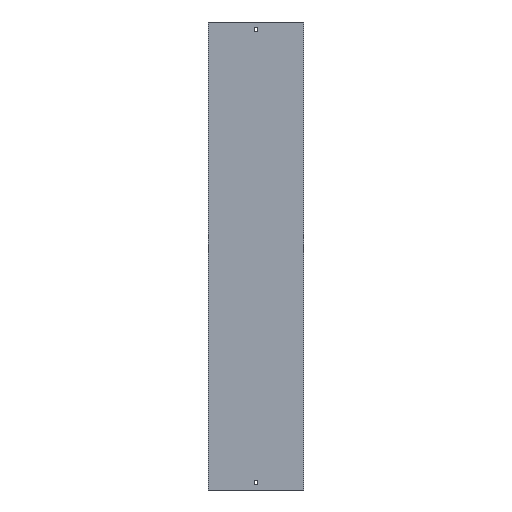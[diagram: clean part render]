
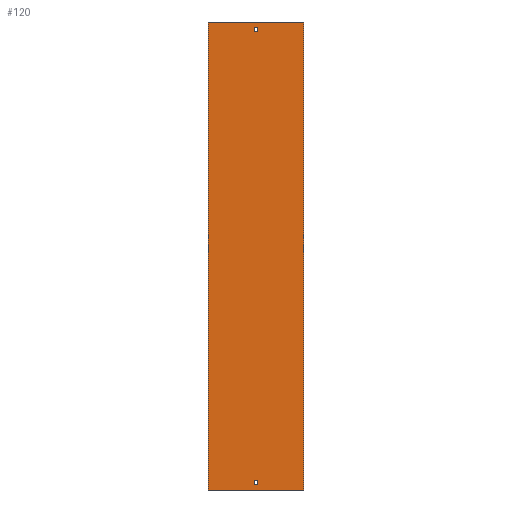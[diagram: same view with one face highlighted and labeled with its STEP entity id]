
A CAD part, front view. The second image highlights one B-rep face of the part: STEP entity #120.
In plain terms, the highlighted planar face has unit normal (0, -1, 0).
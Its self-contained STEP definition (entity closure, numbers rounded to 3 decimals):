
#1 = CARTESIAN_POINT ( 'NONE',  ( -102., 0., 500. ) ) ;
#23 = VERTEX_POINT ( 'NONE', #1022 ) ;
#26 = VERTEX_POINT ( 'NONE', #35 ) ;
#31 = ORIENTED_EDGE ( 'NONE', *, *, #721, .T. ) ;
#35 = CARTESIAN_POINT ( 'NONE',  ( 102., 0., -500. ) ) ;
#50 = CARTESIAN_POINT ( 'NONE',  ( -102., 0., 500. ) ) ;
#58 = VECTOR ( 'NONE', #220, 1000. ) ;
#65 = DIRECTION ( 'NONE',  ( 1., 0., 0. ) ) ;
#70 = FACE_BOUND ( 'NONE', #421, .T. ) ;
#82 = CARTESIAN_POINT ( 'NONE',  ( -3.25, 0., 488. ) ) ;
#98 = ORIENTED_EDGE ( 'NONE', *, *, #1135, .F. ) ;
#104 = CARTESIAN_POINT ( 'NONE',  ( -102., 0., 500. ) ) ;
#116 = VERTEX_POINT ( 'NONE', #949 ) ;
#120 = ADVANCED_FACE ( 'NONE', ( #680, #70, #337 ), #785, .F. ) ;
#157 = EDGE_CURVE ( 'NONE', #796, #852, #523, .T. ) ;
#177 = ORIENTED_EDGE ( 'NONE', *, *, #496, .T. ) ;
#194 = LINE ( 'NONE', #480, #229 ) ;
#204 = ORIENTED_EDGE ( 'NONE', *, *, #928, .T. ) ;
#220 = DIRECTION ( 'NONE',  ( 0., 0., -1. ) ) ;
#228 = CARTESIAN_POINT ( 'NONE',  ( -3.25, 0., 488. ) ) ;
#229 = VECTOR ( 'NONE', #379, 1000. ) ;
#236 = ORIENTED_EDGE ( 'NONE', *, *, #608, .T. ) ;
#243 = CARTESIAN_POINT ( 'NONE',  ( 3.25, 0., 488. ) ) ;
#262 = DIRECTION ( 'NONE',  ( -1., 0., 0. ) ) ;
#266 = LINE ( 'NONE', #619, #1010 ) ;
#286 = VECTOR ( 'NONE', #1129, 1000. ) ;
#295 = ORIENTED_EDGE ( 'NONE', *, *, #464, .F. ) ;
#337 = FACE_BOUND ( 'NONE', #748, .T. ) ;
#346 = CARTESIAN_POINT ( 'NONE',  ( 3.25, 0., -488. ) ) ;
#358 = CARTESIAN_POINT ( 'NONE',  ( -3.25, 0., -488. ) ) ;
#360 = EDGE_CURVE ( 'NONE', #1090, #1038, #679, .T. ) ;
#374 = VECTOR ( 'NONE', #758, 1000. ) ;
#379 = DIRECTION ( 'NONE',  ( 0., 0., -1. ) ) ;
#392 = VECTOR ( 'NONE', #1026, 1000. ) ;
#396 = CARTESIAN_POINT ( 'NONE',  ( -3.25, 0., 479. ) ) ;
#403 = DIRECTION ( 'NONE',  ( 0., 0., -1. ) ) ;
#421 = EDGE_LOOP ( 'NONE', ( #897, #98, #1051, #295 ) ) ;
#436 = LINE ( 'NONE', #358, #286 ) ;
#440 = EDGE_CURVE ( 'NONE', #575, #26, #774, .T. ) ;
#445 = ORIENTED_EDGE ( 'NONE', *, *, #634, .F. ) ;
#461 = ORIENTED_EDGE ( 'NONE', *, *, #360, .F. ) ;
#464 = EDGE_CURVE ( 'NONE', #705, #796, #948, .T. ) ;
#480 = CARTESIAN_POINT ( 'NONE',  ( 102., 0., 500. ) ) ;
#488 = AXIS2_PLACEMENT_3D ( 'NONE', #1, #686, #1032 ) ;
#496 = EDGE_CURVE ( 'NONE', #781, #116, #436, .T. ) ;
#523 = LINE ( 'NONE', #82, #1087 ) ;
#575 = VERTEX_POINT ( 'NONE', #890 ) ;
#579 = VECTOR ( 'NONE', #65, 1000. ) ;
#608 = EDGE_CURVE ( 'NONE', #23, #635, #266, .T. ) ;
#619 = CARTESIAN_POINT ( 'NONE',  ( -3.25, 0., -479. ) ) ;
#634 = EDGE_CURVE ( 'NONE', #1038, #26, #194, .T. ) ;
#635 = VERTEX_POINT ( 'NONE', #729 ) ;
#647 = VERTEX_POINT ( 'NONE', #716 ) ;
#663 = DIRECTION ( 'NONE',  ( 0., 0., 1. ) ) ;
#679 = LINE ( 'NONE', #836, #374 ) ;
#680 = FACE_OUTER_BOUND ( 'NONE', #1120, .T. ) ;
#685 = VECTOR ( 'NONE', #854, 1000. ) ;
#686 = DIRECTION ( 'NONE',  ( 0., 1., 0. ) ) ;
#699 = DIRECTION ( 'NONE',  ( 0., 0., -1. ) ) ;
#705 = VERTEX_POINT ( 'NONE', #947 ) ;
#716 = CARTESIAN_POINT ( 'NONE',  ( -3.25, 0., 479. ) ) ;
#721 = EDGE_CURVE ( 'NONE', #116, #23, #1097, .T. ) ;
#729 = CARTESIAN_POINT ( 'NONE',  ( 3.25, 0., -479. ) ) ;
#748 = EDGE_LOOP ( 'NONE', ( #31, #236, #204, #177 ) ) ;
#758 = DIRECTION ( 'NONE',  ( 1., 0., 0. ) ) ;
#764 = CARTESIAN_POINT ( 'NONE',  ( 3.25, 0., 488. ) ) ;
#774 = LINE ( 'NONE', #1030, #392 ) ;
#781 = VERTEX_POINT ( 'NONE', #938 ) ;
#785 = PLANE ( 'NONE',  #488 ) ;
#796 = VERTEX_POINT ( 'NONE', #243 ) ;
#831 = EDGE_CURVE ( 'NONE', #1090, #575, #835, .T. ) ;
#833 = LINE ( 'NONE', #396, #579 ) ;
#835 = LINE ( 'NONE', #50, #974 ) ;
#836 = CARTESIAN_POINT ( 'NONE',  ( -102., 0., 500. ) ) ;
#852 = VERTEX_POINT ( 'NONE', #971 ) ;
#854 = DIRECTION ( 'NONE',  ( 0., 0., 1. ) ) ;
#871 = LINE ( 'NONE', #346, #959 ) ;
#890 = CARTESIAN_POINT ( 'NONE',  ( -102., 0., -500. ) ) ;
#897 = ORIENTED_EDGE ( 'NONE', *, *, #1128, .F. ) ;
#915 = ORIENTED_EDGE ( 'NONE', *, *, #831, .T. ) ;
#924 = CARTESIAN_POINT ( 'NONE',  ( -3.25, 0., -488. ) ) ;
#928 = EDGE_CURVE ( 'NONE', #635, #781, #871, .T. ) ;
#929 = ORIENTED_EDGE ( 'NONE', *, *, #440, .T. ) ;
#938 = CARTESIAN_POINT ( 'NONE',  ( 3.25, 0., -488. ) ) ;
#947 = CARTESIAN_POINT ( 'NONE',  ( 3.25, 0., 479. ) ) ;
#948 = LINE ( 'NONE', #764, #685 ) ;
#949 = CARTESIAN_POINT ( 'NONE',  ( -3.25, 0., -488. ) ) ;
#959 = VECTOR ( 'NONE', #699, 1000. ) ;
#964 = DIRECTION ( 'NONE',  ( 1., 0., 0. ) ) ;
#971 = CARTESIAN_POINT ( 'NONE',  ( -3.25, 0., 488. ) ) ;
#974 = VECTOR ( 'NONE', #403, 1000. ) ;
#992 = CARTESIAN_POINT ( 'NONE',  ( 102., 0., 500. ) ) ;
#1009 = LINE ( 'NONE', #228, #58 ) ;
#1010 = VECTOR ( 'NONE', #964, 1000. ) ;
#1022 = CARTESIAN_POINT ( 'NONE',  ( -3.25, 0., -479. ) ) ;
#1026 = DIRECTION ( 'NONE',  ( 1., 0., 0. ) ) ;
#1030 = CARTESIAN_POINT ( 'NONE',  ( -102., 0., -500. ) ) ;
#1032 = DIRECTION ( 'NONE',  ( -1., 0., 0. ) ) ;
#1038 = VERTEX_POINT ( 'NONE', #992 ) ;
#1051 = ORIENTED_EDGE ( 'NONE', *, *, #157, .F. ) ;
#1087 = VECTOR ( 'NONE', #262, 1000. ) ;
#1090 = VERTEX_POINT ( 'NONE', #104 ) ;
#1097 = LINE ( 'NONE', #924, #1101 ) ;
#1101 = VECTOR ( 'NONE', #663, 1000. ) ;
#1120 = EDGE_LOOP ( 'NONE', ( #929, #445, #461, #915 ) ) ;
#1128 = EDGE_CURVE ( 'NONE', #647, #705, #833, .T. ) ;
#1129 = DIRECTION ( 'NONE',  ( -1., 0., 0. ) ) ;
#1135 = EDGE_CURVE ( 'NONE', #852, #647, #1009, .T. ) ;
